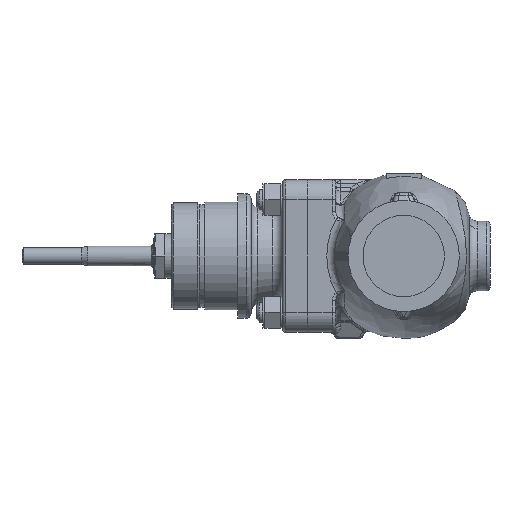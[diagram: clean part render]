
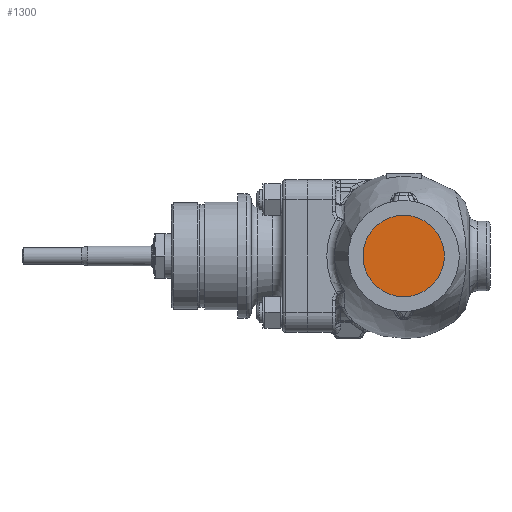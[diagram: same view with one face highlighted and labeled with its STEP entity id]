
A CAD part, left-side view. The second image highlights one B-rep face of the part: STEP entity #1300.
In plain terms, the highlighted planar face has unit normal (-1, 0, 0).
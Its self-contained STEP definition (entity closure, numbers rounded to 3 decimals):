
#467=FACE_OUTER_BOUND('',#2438,.T.);
#1300=ADVANCED_FACE('',(#467),#1529,.F.);
#1529=PLANE('',#6545);
#2438=EDGE_LOOP('',(#3754));
#3754=ORIENTED_EDGE('',*,*,#5450,.T.);
#4707=VERTEX_POINT('',#12203);
#5450=EDGE_CURVE('',#4707,#4707,#5984,.T.);
#5984=CIRCLE('',#6544,24.5);
#6544=AXIS2_PLACEMENT_3D('',#12202,#7828,#7829);
#6545=AXIS2_PLACEMENT_3D('',#12204,#7830,#7831);
#7828=DIRECTION('',(-1.,0.,0.));
#7829=DIRECTION('',(0.,0.,-1.));
#7830=DIRECTION('',(1.,0.,0.));
#7831=DIRECTION('',(0.,0.,-1.));
#12202=CARTESIAN_POINT('',(-113.,0.,0.));
#12203=CARTESIAN_POINT('',(-113.,0.,-24.5));
#12204=CARTESIAN_POINT('',(-113.,0.,0.));
